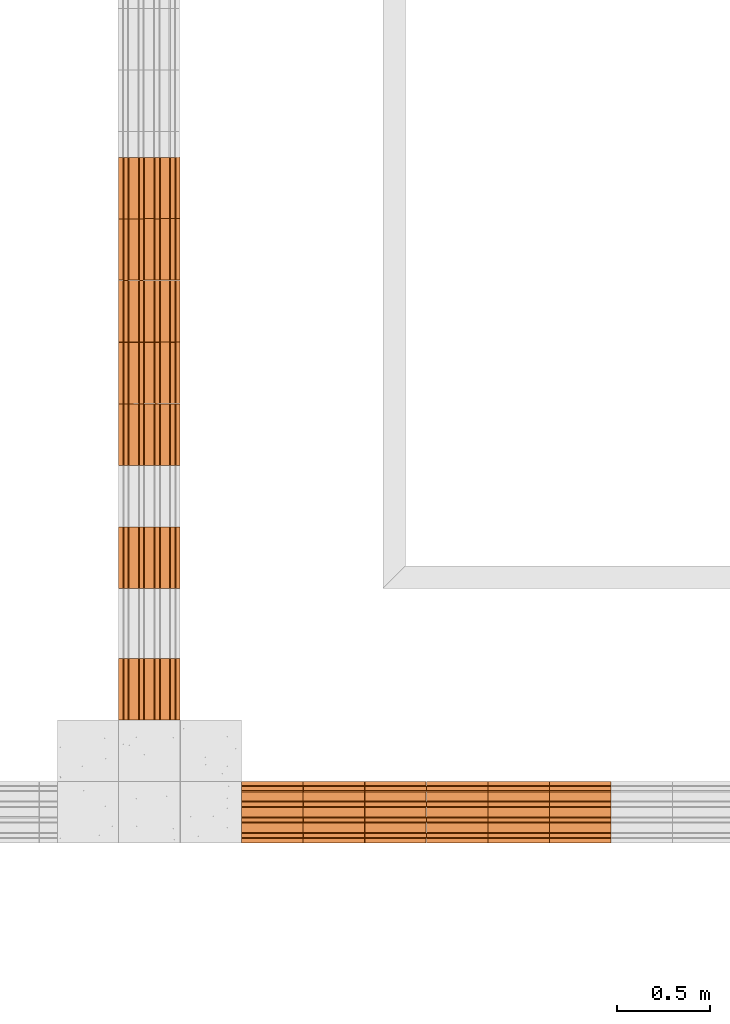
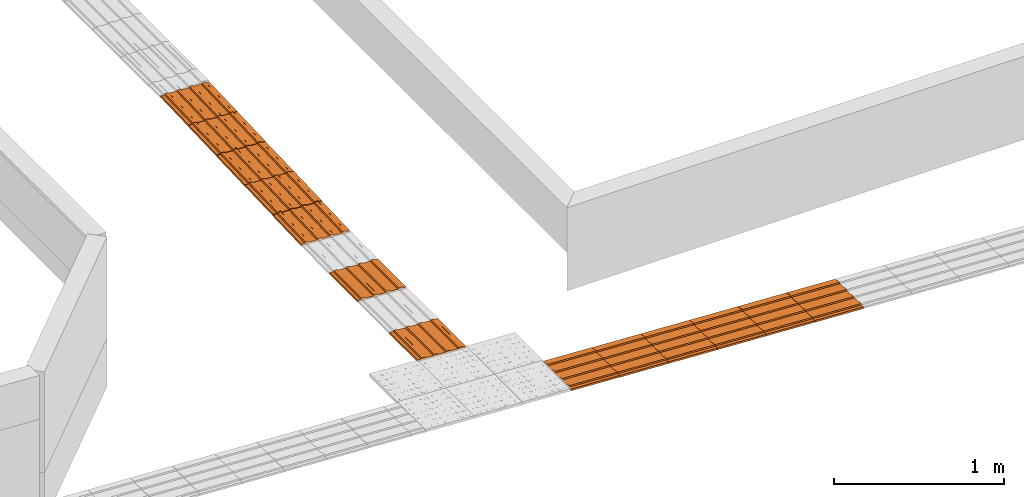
# One storey, part 192 of 237: 13 proxies.
"""IFC2X3 building model written with IfcOpenShell, lengths in millimetres."""

from ifc_helpers import new_model, entity, si_unit, converted_unit, derived_unit, money_unit, direction, frame, origin_with_axes, place, context, subcontext, project, spatial, open_shell, surface_model, source, transform, mapped, type_object, element, save


model = new_model("IFC2X3")

# Units and contexts
model_context = context("Model", 3, precision=0.01, world=origin_with_axes(), true_north=direction((0.0, 1.0)))
body_context = subcontext(model_context, "Body", "Model", "MODEL_VIEW")
ifc_project = project(units=[si_unit("LENGTHUNIT", "METRE", prefix="MILLI"), si_unit("AREAUNIT", "SQUARE_METRE"), si_unit("VOLUMEUNIT", "CUBIC_METRE"), converted_unit("PLANEANGLEUNIT", "DEGREE", entity("IfcPlaneAngleMeasure", 0.0174532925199), si_unit("PLANEANGLEUNIT", "RADIAN"), dimensions=[0, 0, 0, 0, 0, 0, 0]), money_unit("USD"), converted_unit("TIMEUNIT", "Year", entity("IfcTimeMeasure", 31556926.0), si_unit("TIMEUNIT", "SECOND"), dimensions=[0, 0, 1, 0, 0, 0, 0]), si_unit("MASSUNIT", "GRAM", prefix="KILO"), si_unit("THERMODYNAMICTEMPERATUREUNIT", "DEGREE_CELSIUS"), si_unit("LUMINOUSINTENSITYUNIT", "LUMEN"), si_unit("ENERGYUNIT", "JOULE", prefix="MEGA"), derived_unit("THERMALCONDUCTANCEUNIT", [(si_unit("POWERUNIT", "WATT"), 1), (si_unit("LENGTHUNIT", "METRE"), -1), (si_unit("THERMODYNAMICTEMPERATUREUNIT", "KELVIN"), -1)]), derived_unit("SPECIFICHEATCAPACITYUNIT", [(si_unit("ENERGYUNIT", "JOULE"), 1), (si_unit("MASSUNIT", "GRAM", prefix="KILO"), -1), (si_unit("THERMODYNAMICTEMPERATUREUNIT", "KELVIN"), -1)]), derived_unit("MASSDENSITYUNIT", [(si_unit("MASSUNIT", "GRAM", prefix="KILO"), 1), (si_unit("VOLUMEUNIT", "CUBIC_METRE"), -1)])], contexts=[model_context])

# Site, building, storey
site_placement = place(None, origin_with_axes())
site = spatial("IfcSite", under=ifc_project, at=site_placement, Name="Local", CompositionType="ELEMENT")
building_placement = place(site_placement, origin_with_axes())
building = spatial("IfcBuilding", under=site, at=building_placement, Name="Construção", CompositionType="ELEMENT")
storey_placement = place(building_placement, origin_with_axes())
storey = spatial("IfcBuildingStorey", under=building, at=storey_placement, Name="Pavimento Térreo", CompositionType="ELEMENT", Elevation=0.0)

# Proxies
building_element_proxy_type = type_object("IfcBuildingElementProxyType", Name="Piso Direcional 27", PredefinedType="NOTDEFINED")
shared_shape_1 = source(origin_with_axes(), body_context, "Body", "SurfaceModel", [
    surface_model("IfcShellBasedSurfaceModel", [(0.0, -46.9837561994, 6.48810385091), (330.0, -46.9837561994, 6.48810385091), (330.0, -41.0504057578, 12.8539432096), (0.0, -41.0504057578, 12.8539432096)], [open_shell([[[0, 1, 2, 3]]])]),
    surface_model("IfcShellBasedSurfaceModel", [(330.0, -153.805759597, -1.28379652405), (330.0, 175.744996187, -18.4971448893), (330.0, 176.44048501, -5.18196283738), (330.0, 154.098060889, -4.01495616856), (330.0, 148.860199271, 2.9343865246), (330.0, 126.51777515, 4.10139319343), (330.0, 120.584424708, -2.26444616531), (330.0, 70.3139704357, 0.361318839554), (330.0, 65.0761088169, 7.31066153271), (330.0, 42.7336846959, 8.47766820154), (330.0, 36.8003342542, 2.1118288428), (330.0, -13.470120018, 4.73759384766), (330.0, -18.7079816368, 11.6869365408), (330.0, -41.0504057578, 12.8539432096), (330.0, -46.9837561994, 6.48810385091), (330.0, -97.2542104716, 9.11386885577), (330.0, -102.49207209, 16.0632115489), (330.0, -124.834496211, 17.2302182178), (330.0, -130.767846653, 10.864378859), (330.0, -153.110270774, 12.0313855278)], [open_shell([[[0, 1, 2, 3, 4, 5, 6, 7, 8, 9, 10, 11, 12, 13, 14, 15, 16, 17, 18, 19]]])]),
    surface_model("IfcShellBasedSurfaceModel", [(0.0, -18.7079816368, 11.6869365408), (330.0, -18.7079816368, 11.6869365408), (330.0, -13.470120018, 4.73759384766), (0.0, -13.470120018, 4.73759384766)], [open_shell([[[0, 1, 2, 3]]])]),
    surface_model("IfcShellBasedSurfaceModel", [(0.0, -102.49207209, 16.0632115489), (330.0, -102.49207209, 16.0632115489), (330.0, -97.2542104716, 9.11386885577), (0.0, -97.2542104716, 9.11386885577)], [open_shell([[[0, 1, 2, 3]]])]),
    surface_model("IfcShellBasedSurfaceModel", [(0.0, 65.0761088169, 7.31066153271), (330.0, 65.0761088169, 7.31066153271), (330.0, 70.3139704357, 0.361318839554), (0.0, 70.3139704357, 0.361318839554)], [open_shell([[[0, 1, 2, 3]]])]),
    surface_model("IfcShellBasedSurfaceModel", [(0.0, 36.8003342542, 2.1118288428), (330.0, 36.8003342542, 2.1118288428), (330.0, 42.7336846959, 8.47766820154), (0.0, 42.7336846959, 8.47766820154)], [open_shell([[[0, 1, 2, 3]]])]),
    surface_model("IfcShellBasedSurfaceModel", [(0.0, -130.767846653, 10.864378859), (330.0, -130.767846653, 10.864378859), (330.0, -124.834496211, 17.2302182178), (0.0, -124.834496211, 17.2302182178)], [open_shell([[[0, 1, 2, 3]]])]),
    surface_model("IfcShellBasedSurfaceModel", [(0.0, 176.44048501, -5.18196283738), (0.0, 154.098060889, -4.01495616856), (330.0, 154.098060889, -4.01495616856), (330.0, 176.44048501, -5.18196283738)], [open_shell([[[0, 1, 2, 3]]])]),
    surface_model("IfcShellBasedSurfaceModel", [(0.0, 120.584424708, -2.26444616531), (330.0, 120.584424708, -2.26444616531), (330.0, 126.51777515, 4.10139319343), (0.0, 126.51777515, 4.10139319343)], [open_shell([[[0, 1, 2, 3]]])]),
    surface_model("IfcShellBasedSurfaceModel", [(0.0, 148.860199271, 2.9343865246), (330.0, 148.860199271, 2.9343865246), (330.0, 154.098060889, -4.01495616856), (0.0, 154.098060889, -4.01495616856)], [open_shell([[[0, 1, 2, 3]]])]),
    surface_model("IfcShellBasedSurfaceModel", [(0.0, 36.8003342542, 2.1118288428), (0.0, -13.470120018, 4.73759384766), (330.0, -13.470120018, 4.73759384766), (330.0, 36.8003342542, 2.1118288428)], [open_shell([[[0, 1, 2, 3]]])]),
    surface_model("IfcShellBasedSurfaceModel", [(0.0, 120.584424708, -2.26444616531), (0.0, 70.3139704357, 0.361318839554), (330.0, 70.3139704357, 0.361318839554), (330.0, 120.584424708, -2.26444616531)], [open_shell([[[0, 1, 2, 3]]])]),
    surface_model("IfcShellBasedSurfaceModel", [(0.0, 148.860199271, 2.9343865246), (0.0, 126.51777515, 4.10139319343), (330.0, 126.51777515, 4.10139319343), (330.0, 148.860199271, 2.9343865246)], [open_shell([[[0, 1, 2, 3]]])]),
    surface_model("IfcShellBasedSurfaceModel", [(0.0, 120.584424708, -2.26444616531), (0.0, 126.51777515, 4.10139319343), (0.0, 148.860199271, 2.9343865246), (0.0, 154.098060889, -4.01495616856), (0.0, 176.44048501, -5.18196283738), (0.0, 175.744996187, -18.4971448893), (0.0, -153.805759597, -1.28379652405), (0.0, -153.110270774, 12.0313855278), (0.0, -130.767846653, 10.864378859), (0.0, -124.834496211, 17.2302182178), (0.0, -102.49207209, 16.0632115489), (0.0, -97.2542104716, 9.11386885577), (0.0, -46.9837561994, 6.48810385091), (0.0, -41.0504057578, 12.8539432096), (0.0, -18.7079816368, 11.6869365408), (0.0, -13.470120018, 4.73759384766), (0.0, 36.8003342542, 2.1118288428), (0.0, 42.7336846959, 8.47766820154), (0.0, 65.0761088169, 7.31066153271), (0.0, 70.3139704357, 0.361318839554)], [open_shell([[[0, 1, 2, 3, 4, 5, 6, 7, 8, 9, 10, 11, 12, 13, 14, 15, 16, 17, 18, 19]]])]),
    surface_model("IfcShellBasedSurfaceModel", [(330.0, -41.0504057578, 12.8539432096), (330.0, -18.7079816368, 11.6869365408), (0.0, -18.7079816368, 11.6869365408), (0.0, -41.0504057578, 12.8539432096)], [open_shell([[[0, 1, 2, 3]]])]),
    surface_model("IfcShellBasedSurfaceModel", [(0.0, -46.9837561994, 6.48810385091), (0.0, -97.2542104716, 9.11386885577), (330.0, -97.2542104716, 9.11386885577), (330.0, -46.9837561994, 6.48810385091)], [open_shell([[[0, 1, 2, 3]]])]),
    surface_model("IfcShellBasedSurfaceModel", [(330.0, 42.7336846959, 8.47766820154), (330.0, 65.0761088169, 7.31066153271), (0.0, 65.0761088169, 7.31066153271), (0.0, 42.7336846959, 8.47766820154)], [open_shell([[[0, 1, 2, 3]]])]),
    surface_model("IfcShellBasedSurfaceModel", [(330.0, -124.834496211, 17.2302182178), (330.0, -102.49207209, 16.0632115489), (0.0, -102.49207209, 16.0632115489), (0.0, -124.834496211, 17.2302182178)], [open_shell([[[0, 1, 2, 3]]])]),
    surface_model("IfcShellBasedSurfaceModel", [(330.0, 175.744996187, -18.4971448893), (0.0, 175.744996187, -18.4971448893), (0.0, 176.44048501, -5.18196283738), (330.0, 176.44048501, -5.18196283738)], [open_shell([[[0, 1, 2, 3]]])]),
    surface_model("IfcShellBasedSurfaceModel", [(330.0, -153.805759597, -1.28379652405), (0.0, -153.805759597, -1.28379652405), (0.0, 175.744996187, -18.4971448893), (330.0, 175.744996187, -18.4971448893)], [open_shell([[[0, 1, 2, 3]]])]),
    surface_model("IfcShellBasedSurfaceModel", [(330.0, -153.110270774, 12.0313855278), (330.0, -130.767846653, 10.864378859), (0.0, -130.767846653, 10.864378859), (0.0, -153.110270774, 12.0313855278)], [open_shell([[[0, 1, 2, 3]]])]),
    surface_model("IfcShellBasedSurfaceModel", [(0.0, -153.805759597, -1.28379652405), (330.0, -153.805759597, -1.28379652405), (330.0, -153.110270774, 12.0313855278), (0.0, -153.110270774, 12.0313855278)], [open_shell([[[0, 1, 2, 3]]])]),
])
for number, where, z_axis, x_axis, name in (
    (1, (135348.0994, 11647.6236011, -8007.43350641), (0.0, 0.0, 1.0), (0.0, -1.0, 0.0), "Objeto-0055"),
    (2, (135348.0994, 12352.6060556, -8007.43350641), (0.0, 0.0, 1.0), (0.0, -1.0, 0.0), "Objeto-0055"),
):
    element("IfcBuildingElementProxy", number, at=place(storey_placement, frame(where, z_axis=z_axis, x_axis=x_axis)), inside=storey, type_object=building_element_proxy_type, Name=name, context=body_context, shape_type="MappedRepresentation", body=[
        mapped(shared_shape_1, transform((0.0, 0.0, 0.0))),
    ])
shared_shape_2 = source(origin_with_axes(), body_context, "Body", "SurfaceModel", [
    surface_model("IfcShellBasedSurfaceModel", [(-0.210134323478, -47.258225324, 4.02303628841), (329.340621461, -47.258225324, 21.2363846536), (328.992877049, -41.665004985, 27.8939756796), (-0.557878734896, -41.665004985, 10.6806273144)], [open_shell([[[0, 1, 2, 3]]])]),
    surface_model("IfcShellBasedSurfaceModel", [(330.036110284, -153.529411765, 7.92120260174), (330.036110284, 176.470588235, 7.92120260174), (329.340621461, 176.470588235, 21.2363846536), (329.340621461, 154.097706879, 21.2363846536), (328.992877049, 148.50448654, 27.8939756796), (328.992877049, 126.131605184, 27.8939756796), (329.340621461, 120.538384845, 21.2363846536), (329.340621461, 70.1994017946, 21.2363846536), (328.992877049, 64.6061814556, 27.8939756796), (328.992877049, 42.2333000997, 27.8939756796), (329.340621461, 36.6400797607, 21.2363846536), (329.340621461, -13.6989032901, 21.2363846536), (328.992877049, -19.2921236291, 27.8939756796), (328.992877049, -41.665004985, 27.8939756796), (329.340621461, -47.258225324, 21.2363846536), (329.340621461, -97.5972083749, 21.2363846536), (328.992877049, -103.190428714, 27.8939756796), (328.992877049, -125.56331007, 27.8939756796), (329.340621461, -131.156530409, 21.2363846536), (329.340621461, -153.529411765, 21.2363846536)], [open_shell([[[0, 1, 2, 3, 4, 5, 6, 7, 8, 9, 10, 11, 12, 13, 14, 15, 16, 17, 18, 19]]])]),
    surface_model("IfcShellBasedSurfaceModel", [(-0.557878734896, -19.2921236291, 10.6806273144), (328.992877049, -19.2921236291, 27.8939756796), (329.340621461, -13.6989032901, 21.2363846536), (-0.210134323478, -13.6989032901, 4.02303628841)], [open_shell([[[0, 1, 2, 3]]])]),
    surface_model("IfcShellBasedSurfaceModel", [(-0.557878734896, -103.190428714, 10.6806273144), (328.992877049, -103.190428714, 27.8939756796), (329.340621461, -97.5972083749, 21.2363846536), (-0.210134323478, -97.5972083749, 4.02303628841)], [open_shell([[[0, 1, 2, 3]]])]),
    surface_model("IfcShellBasedSurfaceModel", [(-0.557878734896, 64.6061814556, 10.6806273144), (328.992877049, 64.6061814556, 27.8939756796), (329.340621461, 70.1994017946, 21.2363846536), (-0.210134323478, 70.1994017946, 4.02303628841)], [open_shell([[[0, 1, 2, 3]]])]),
    surface_model("IfcShellBasedSurfaceModel", [(-0.210134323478, 36.6400797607, 4.02303628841), (329.340621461, 36.6400797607, 21.2363846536), (328.992877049, 42.2333000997, 27.8939756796), (-0.557878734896, 42.2333000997, 10.6806273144)], [open_shell([[[0, 1, 2, 3]]])]),
    surface_model("IfcShellBasedSurfaceModel", [(-0.210134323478, -131.156530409, 4.02303628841), (329.340621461, -131.156530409, 21.2363846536), (328.992877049, -125.56331007, 27.8939756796), (-0.557878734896, -125.56331007, 10.6806273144)], [open_shell([[[0, 1, 2, 3]]])]),
    surface_model("IfcShellBasedSurfaceModel", [(-0.210134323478, 176.470588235, 4.02303628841), (-0.210134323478, 154.097706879, 4.02303628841), (329.340621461, 154.097706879, 21.2363846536), (329.340621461, 176.470588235, 21.2363846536)], [open_shell([[[0, 1, 2, 3]]])]),
    surface_model("IfcShellBasedSurfaceModel", [(-0.210134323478, 120.538384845, 4.02303628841), (329.340621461, 120.538384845, 21.2363846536), (328.992877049, 126.131605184, 27.8939756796), (-0.557878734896, 126.131605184, 10.6806273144)], [open_shell([[[0, 1, 2, 3]]])]),
    surface_model("IfcShellBasedSurfaceModel", [(-0.557878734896, 148.50448654, 10.6806273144), (328.992877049, 148.50448654, 27.8939756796), (329.340621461, 154.097706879, 21.2363846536), (-0.210134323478, 154.097706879, 4.02303628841)], [open_shell([[[0, 1, 2, 3]]])]),
    surface_model("IfcShellBasedSurfaceModel", [(-0.210134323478, 36.6400797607, 4.02303628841), (-0.210134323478, -13.6989032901, 4.02303628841), (329.340621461, -13.6989032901, 21.2363846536), (329.340621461, 36.6400797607, 21.2363846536)], [open_shell([[[0, 1, 2, 3]]])]),
    surface_model("IfcShellBasedSurfaceModel", [(-0.210134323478, 120.538384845, 4.02303628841), (-0.210134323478, 70.1994017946, 4.02303628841), (329.340621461, 70.1994017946, 21.2363846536), (329.340621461, 120.538384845, 21.2363846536)], [open_shell([[[0, 1, 2, 3]]])]),
    surface_model("IfcShellBasedSurfaceModel", [(-0.557878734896, 148.50448654, 10.6806273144), (-0.557878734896, 126.131605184, 10.6806273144), (328.992877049, 126.131605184, 27.8939756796), (328.992877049, 148.50448654, 27.8939756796)], [open_shell([[[0, 1, 2, 3]]])]),
    surface_model("IfcShellBasedSurfaceModel", [(-0.210134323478, 120.538384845, 4.02303628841), (-0.557878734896, 126.131605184, 10.6806273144), (-0.557878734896, 148.50448654, 10.6806273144), (-0.210134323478, 154.097706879, 4.02303628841), (-0.210134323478, 176.470588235, 4.02303628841), (0.48535449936, 176.470588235, -9.29214576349), (0.48535449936, -153.529411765, -9.29214576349), (-0.210134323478, -153.529411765, 4.02303628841), (-0.210134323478, -131.156530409, 4.02303628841), (-0.557878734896, -125.56331007, 10.6806273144), (-0.557878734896, -103.190428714, 10.6806273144), (-0.210134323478, -97.5972083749, 4.02303628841), (-0.210134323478, -47.258225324, 4.02303628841), (-0.557878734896, -41.665004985, 10.6806273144), (-0.557878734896, -19.2921236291, 10.6806273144), (-0.210134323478, -13.6989032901, 4.02303628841), (-0.210134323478, 36.6400797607, 4.02303628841), (-0.557878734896, 42.2333000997, 10.6806273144), (-0.557878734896, 64.6061814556, 10.6806273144), (-0.210134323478, 70.1994017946, 4.02303628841)], [open_shell([[[0, 1, 2, 3, 4, 5, 6, 7, 8, 9, 10, 11, 12, 13, 14, 15, 16, 17, 18, 19]]])]),
    surface_model("IfcShellBasedSurfaceModel", [(328.992877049, -41.665004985, 27.8939756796), (328.992877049, -19.2921236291, 27.8939756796), (-0.557878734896, -19.2921236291, 10.6806273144), (-0.557878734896, -41.665004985, 10.6806273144)], [open_shell([[[0, 1, 2, 3]]])]),
    surface_model("IfcShellBasedSurfaceModel", [(-0.210134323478, -47.258225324, 4.02303628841), (-0.210134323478, -97.5972083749, 4.02303628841), (329.340621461, -97.5972083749, 21.2363846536), (329.340621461, -47.258225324, 21.2363846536)], [open_shell([[[0, 1, 2, 3]]])]),
    surface_model("IfcShellBasedSurfaceModel", [(328.992877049, 42.2333000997, 27.8939756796), (328.992877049, 64.6061814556, 27.8939756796), (-0.557878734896, 64.6061814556, 10.6806273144), (-0.557878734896, 42.2333000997, 10.6806273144)], [open_shell([[[0, 1, 2, 3]]])]),
    surface_model("IfcShellBasedSurfaceModel", [(328.992877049, -125.56331007, 27.8939756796), (328.992877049, -103.190428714, 27.8939756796), (-0.557878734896, -103.190428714, 10.6806273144), (-0.557878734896, -125.56331007, 10.6806273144)], [open_shell([[[0, 1, 2, 3]]])]),
    surface_model("IfcShellBasedSurfaceModel", [(330.036110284, 176.470588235, 7.92120260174), (0.48535449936, 176.470588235, -9.29214576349), (-0.210134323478, 176.470588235, 4.02303628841), (329.340621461, 176.470588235, 21.2363846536)], [open_shell([[[0, 1, 2, 3]]])]),
    surface_model("IfcShellBasedSurfaceModel", [(330.036110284, -153.529411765, 7.92120260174), (0.48535449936, -153.529411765, -9.29214576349), (0.48535449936, 176.470588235, -9.29214576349), (330.036110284, 176.470588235, 7.92120260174)], [open_shell([[[0, 1, 2, 3]]])]),
    surface_model("IfcShellBasedSurfaceModel", [(329.340621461, -153.529411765, 21.2363846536), (329.340621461, -131.156530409, 21.2363846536), (-0.210134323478, -131.156530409, 4.02303628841), (-0.210134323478, -153.529411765, 4.02303628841)], [open_shell([[[0, 1, 2, 3]]])]),
    surface_model("IfcShellBasedSurfaceModel", [(0.48535449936, -153.529411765, -9.29214576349), (330.036110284, -153.529411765, 7.92120260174), (329.340621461, -153.529411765, 21.2363846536), (-0.210134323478, -153.529411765, 4.02303628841)], [open_shell([[[0, 1, 2, 3]]])]),
])
for number, where, z_axis, x_axis, name in (
    (3, (137836.831288, 10833.7502046, -8142.39473333), (0.0, 0.0, 1.0), (-1.0, 0.0, 0.0), "Objeto-0055"),
    (4, (136184.605035, 10833.7502046, -8054.99771047), (0.0, 0.0, 1.0), (-1.0, 0.0, 0.0), "Objeto-0055"),
    (5, (136515.054279, 10833.7502046, -8073.35466068), (0.0, 0.0, 1.0), (-1.0, 0.0, 0.0), "Objeto-0055"),
    (6, (136845.484275, 10833.7502046, -8090.61393423), (0.0, 0.0, 1.0), (-1.0, 0.0, 0.0), "Objeto-0055"),
    (7, (137175.914272, 10833.7502046, -8107.87320778), (0.0, 0.0, 1.0), (-1.0, 0.0, 0.0), "Objeto-0055"),
    (8, (137506.344269, 10833.7502046, -8125.13248134), (0.0, 0.0, 1.0), (-1.0, 0.0, 0.0), "Objeto-0055"),
):
    element("IfcBuildingElementProxy", number, at=place(storey_placement, frame(where, z_axis=z_axis, x_axis=x_axis)), inside=storey, type_object=building_element_proxy_type, Name=name, context=body_context, shape_type="MappedRepresentation", body=[
        mapped(shared_shape_2, transform((0.0, 0.0, 0.0))),
    ])
shared_shape_3 = source(origin_with_axes(), body_context, "Body", "SurfaceModel", [
    surface_model("IfcShellBasedSurfaceModel", [(0.22643155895, -46.9837561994, 6.48415147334), (330.025404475, -46.9837561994, -5.03268243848), (330.247569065, -41.0504057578, 1.32927902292), (0.448596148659, -41.0504057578, 12.8461129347)], [open_shell([[[0, 1, 2, 3]]])]),
    surface_model("IfcShellBasedSurfaceModel", [(329.754169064, -153.805759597, -12.7998483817), (329.153431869, 175.744996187, -30.0027108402), (329.618125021, 176.44048501, -16.6956400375), (329.658852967, 154.098060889, -15.5293442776), (329.901381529, 148.860199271, -8.58423493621), (329.942109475, 126.51777515, -7.41793917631), (329.719944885, 120.584424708, -13.7799006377), (329.811582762, 70.3139704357, -11.1557351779), (330.054111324, 65.0761088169, -4.2106258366), (330.09483927, 42.7336846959, -3.0443300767), (329.87267468, 36.8003342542, -9.4062915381), (329.964312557, -13.470120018, -6.78212607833), (330.20684112, -18.7079816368, 0.162983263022), (330.247569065, -41.0504057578, 1.32927902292), (330.025404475, -46.9837561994, -5.03268243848), (330.117042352, -97.2542104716, -2.40851697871), (330.359570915, -102.49207209, 4.53659236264), (330.40029886, -124.834496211, 5.70288812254), (330.17813427, -130.767846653, -0.659073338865), (330.218862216, -153.110270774, 0.507222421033)], [open_shell([[[0, 1, 2, 3, 4, 5, 6, 7, 8, 9, 10, 11, 12, 13, 14, 15, 16, 17, 18, 19]]])]),
    surface_model("IfcShellBasedSurfaceModel", [(0.407868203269, -18.7079816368, 11.6798171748), (330.20684112, -18.7079816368, 0.162983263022), (329.964312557, -13.470120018, -6.78212607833), (0.165339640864, -13.470120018, 4.7347078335)], [open_shell([[[0, 1, 2, 3]]])]),
    surface_model("IfcShellBasedSurfaceModel", [(0.560597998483, -102.49207209, 16.0534262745), (330.359570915, -102.49207209, 4.53659236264), (330.117042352, -97.2542104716, -2.40851697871), (0.318069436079, -97.2542104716, 9.10831693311)], [open_shell([[[0, 1, 2, 3]]])]),
    surface_model("IfcShellBasedSurfaceModel", [(0.255138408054, 65.0761088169, 7.30620807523), (330.054111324, 65.0761088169, -4.2106258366), (329.811582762, 70.3139704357, -11.1557351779), (0.0126098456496, 70.3139704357, 0.361098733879)], [open_shell([[[0, 1, 2, 3]]])]),
    surface_model("IfcShellBasedSurfaceModel", [(0.0737017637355, 36.8003342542, 2.11054237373), (329.87267468, 36.8003342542, -9.4062915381), (330.09483927, 42.7336846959, -3.0443300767), (0.295866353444, 42.7336846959, 8.47250383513)], [open_shell([[[0, 1, 2, 3]]])]),
    surface_model("IfcShellBasedSurfaceModel", [(0.379161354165, -130.767846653, 10.857760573), (330.17813427, -130.767846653, -0.659073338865), (330.40029886, -124.834496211, 5.70288812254), (0.601325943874, -124.834496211, 17.2197220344)], [open_shell([[[0, 1, 2, 3]]])]),
    surface_model("IfcShellBasedSurfaceModel", [(-0.180847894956, 176.44048501, -5.17880612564), (-0.140119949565, 154.098060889, -4.01251036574), (329.658852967, 154.098060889, -15.5293442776), (329.618125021, 176.44048501, -16.6956400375)], [open_shell([[[0, 1, 2, 3]]])]),
    surface_model("IfcShellBasedSurfaceModel", [(-0.0790280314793, 120.584424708, -2.26306672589), (329.719944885, 120.584424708, -13.7799006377), (329.942109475, 126.51777515, -7.41793917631), (0.14313655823, 126.51777515, 4.09889473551)], [open_shell([[[0, 1, 2, 3]]])]),
    surface_model("IfcShellBasedSurfaceModel", [(0.102408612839, 148.860199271, 2.93259897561), (329.901381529, 148.860199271, -8.58423493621), (329.658852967, 154.098060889, -15.5293442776), (-0.140119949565, 154.098060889, -4.01251036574)], [open_shell([[[0, 1, 2, 3]]])]),
    surface_model("IfcShellBasedSurfaceModel", [(0.0737017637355, 36.8003342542, 2.11054237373), (0.165339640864, -13.470120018, 4.7347078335), (329.964312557, -13.470120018, -6.78212607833), (329.87267468, 36.8003342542, -9.4062915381)], [open_shell([[[0, 1, 2, 3]]])]),
    surface_model("IfcShellBasedSurfaceModel", [(-0.0790280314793, 120.584424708, -2.26306672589), (0.0126098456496, 70.3139704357, 0.361098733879), (329.811582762, 70.3139704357, -11.1557351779), (329.719944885, 120.584424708, -13.7799006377)], [open_shell([[[0, 1, 2, 3]]])]),
    surface_model("IfcShellBasedSurfaceModel", [(0.102408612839, 148.860199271, 2.93259897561), (0.14313655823, 126.51777515, 4.09889473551), (329.942109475, 126.51777515, -7.41793917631), (329.901381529, 148.860199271, -8.58423493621)], [open_shell([[[0, 1, 2, 3]]])]),
    surface_model("IfcShellBasedSurfaceModel", [(-0.0790280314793, 120.584424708, -2.26306672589), (0.14313655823, 126.51777515, 4.09889473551), (0.102408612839, 148.860199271, 2.93259897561), (-0.140119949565, 154.098060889, -4.01251036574), (-0.180847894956, 176.44048501, -5.17880612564), (-0.645541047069, 175.744996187, -18.4858769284), (-0.0448038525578, -153.805759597, -1.28301446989), (0.419889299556, -153.110270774, 12.0240563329), (0.379161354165, -130.767846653, 10.857760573), (0.601325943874, -124.834496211, 17.2197220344), (0.560597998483, -102.49207209, 16.0534262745), (0.318069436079, -97.2542104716, 9.10831693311), (0.22643155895, -46.9837561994, 6.48415147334), (0.448596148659, -41.0504057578, 12.8461129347), (0.407868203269, -18.7079816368, 11.6798171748), (0.165339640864, -13.470120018, 4.7347078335), (0.0737017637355, 36.8003342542, 2.11054237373), (0.295866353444, 42.7336846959, 8.47250383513), (0.255138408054, 65.0761088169, 7.30620807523), (0.0126098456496, 70.3139704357, 0.361098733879)], [open_shell([[[0, 1, 2, 3, 4, 5, 6, 7, 8, 9, 10, 11, 12, 13, 14, 15, 16, 17, 18, 19]]])]),
    surface_model("IfcShellBasedSurfaceModel", [(330.247569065, -41.0504057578, 1.32927902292), (330.20684112, -18.7079816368, 0.162983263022), (0.407868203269, -18.7079816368, 11.6798171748), (0.448596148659, -41.0504057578, 12.8461129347)], [open_shell([[[0, 1, 2, 3]]])]),
    surface_model("IfcShellBasedSurfaceModel", [(0.22643155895, -46.9837561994, 6.48415147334), (0.318069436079, -97.2542104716, 9.10831693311), (330.117042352, -97.2542104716, -2.40851697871), (330.025404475, -46.9837561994, -5.03268243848)], [open_shell([[[0, 1, 2, 3]]])]),
    surface_model("IfcShellBasedSurfaceModel", [(330.09483927, 42.7336846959, -3.0443300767), (330.054111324, 65.0761088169, -4.2106258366), (0.255138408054, 65.0761088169, 7.30620807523), (0.295866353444, 42.7336846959, 8.47250383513)], [open_shell([[[0, 1, 2, 3]]])]),
    surface_model("IfcShellBasedSurfaceModel", [(330.40029886, -124.834496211, 5.70288812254), (330.359570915, -102.49207209, 4.53659236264), (0.560597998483, -102.49207209, 16.0534262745), (0.601325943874, -124.834496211, 17.2197220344)], [open_shell([[[0, 1, 2, 3]]])]),
    surface_model("IfcShellBasedSurfaceModel", [(329.153431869, 175.744996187, -30.0027108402), (-0.645541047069, 175.744996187, -18.4858769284), (-0.180847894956, 176.44048501, -5.17880612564), (329.618125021, 176.44048501, -16.6956400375)], [open_shell([[[0, 1, 2, 3]]])]),
    surface_model("IfcShellBasedSurfaceModel", [(329.754169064, -153.805759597, -12.7998483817), (-0.0448038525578, -153.805759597, -1.28301446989), (-0.645541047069, 175.744996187, -18.4858769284), (329.153431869, 175.744996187, -30.0027108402)], [open_shell([[[0, 1, 2, 3]]])]),
    surface_model("IfcShellBasedSurfaceModel", [(330.218862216, -153.110270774, 0.507222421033), (330.17813427, -130.767846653, -0.659073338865), (0.379161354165, -130.767846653, 10.857760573), (0.419889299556, -153.110270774, 12.0240563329)], [open_shell([[[0, 1, 2, 3]]])]),
    surface_model("IfcShellBasedSurfaceModel", [(-0.0448038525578, -153.805759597, -1.28301446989), (329.754169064, -153.805759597, -12.7998483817), (330.218862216, -153.110270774, 0.507222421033), (0.419889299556, -153.110270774, 12.0240563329)], [open_shell([[[0, 1, 2, 3]]])]),
])
for number, where, z_axis, x_axis, name in (
    (9, (135348.0994, 13012.4392672, -7993.59776092), (0.0, 0.0, 1.0), (0.0, -1.0, 0.0), "Objeto-0055"),
    (10, (135348.0994, 13343.837355, -7979.19419751), (0.0, 0.0, 1.0), (0.0, -1.0, 0.0), "Objeto-0055"),
    (11, (135348.0994, 13675.3519708, -7968.12755587), (0.0, 0.0, 1.0), (0.0, -1.0, 0.0), "Objeto-0055"),
    (12, (135348.0994, 14006.7455512, -7954.0774117), (0.0, 0.0, 1.0), (0.0, -1.0, 0.0), "Objeto-0055"),
    (13, (135348.0994, 14336.5445241, -7941.11518651), (0.0, 0.0, 1.0), (0.0, -1.0, 0.0), "Objeto-0055"),
):
    element("IfcBuildingElementProxy", number, at=place(storey_placement, frame(where, z_axis=z_axis, x_axis=x_axis)), inside=storey, type_object=building_element_proxy_type, Name=name, context=body_context, shape_type="MappedRepresentation", body=[
        mapped(shared_shape_3, transform((0.0, 0.0, 0.0))),
    ])

save(model, "model.ifc")
